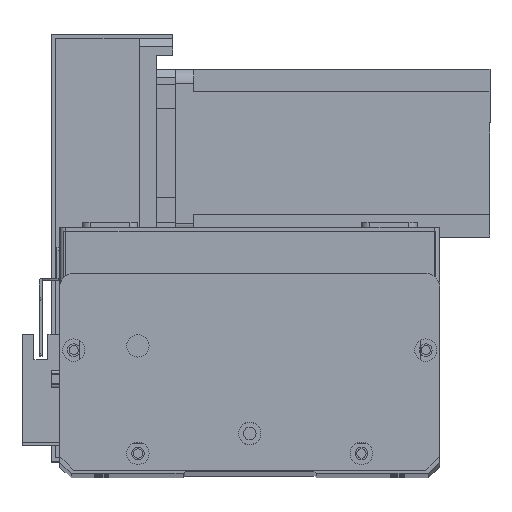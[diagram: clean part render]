
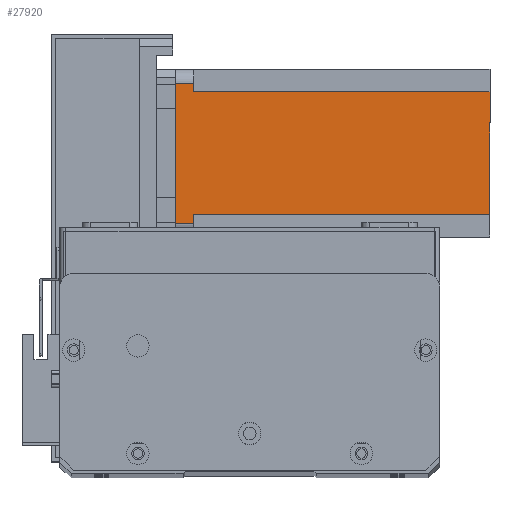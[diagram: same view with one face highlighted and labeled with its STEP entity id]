
A CAD part, top view. The second image highlights one B-rep face of the part: STEP entity #27920.
In plain terms, the highlighted planar face has unit normal (0, 0, 1) as drawn and (0, -1, 0) by its records, which use the part's own axes.
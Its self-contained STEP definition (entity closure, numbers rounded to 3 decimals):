
#32 = VERTEX_POINT ( 'NONE', #8548 ) ;
#357 = VERTEX_POINT ( 'NONE', #23467 ) ;
#372 = LINE ( 'NONE', #2084, #22932 ) ;
#772 = CARTESIAN_POINT ( 'NONE',  ( 8., 0., -112.5 ) ) ;
#1300 = FACE_OUTER_BOUND ( 'NONE', #15121, .T. ) ;
#2084 = CARTESIAN_POINT ( 'NONE',  ( 0., 0., 0. ) ) ;
#3208 = AXIS2_PLACEMENT_3D ( 'NONE', #16554, #27728, #14398 ) ;
#3613 = VECTOR ( 'NONE', #7648, 1000. ) ;
#3768 = VECTOR ( 'NONE', #26689, 1000. ) ;
#3980 = VERTEX_POINT ( 'NONE', #28696 ) ;
#4380 = CARTESIAN_POINT ( 'NONE',  ( 5., 0., -112.5 ) ) ;
#4400 = VECTOR ( 'NONE', #9459, 1000. ) ;
#7367 = LINE ( 'NONE', #22879, #19296 ) ;
#7623 = EDGE_CURVE ( 'NONE', #357, #16253, #7367, .T. ) ;
#7648 = DIRECTION ( 'NONE',  ( 1., 0., 0. ) ) ;
#8548 = CARTESIAN_POINT ( 'NONE',  ( 52., 0., -6.5 ) ) ;
#9073 = CARTESIAN_POINT ( 'NONE',  ( 5., 0., 0. ) ) ;
#9459 = DIRECTION ( 'NONE',  ( 0., 0., 1. ) ) ;
#9672 = LINE ( 'NONE', #16555, #3613 ) ;
#10803 = CARTESIAN_POINT ( 'NONE',  ( 52., 0., -6.5 ) ) ;
#10835 = ORIENTED_EDGE ( 'NONE', *, *, #14169, .T. ) ;
#10970 = CARTESIAN_POINT ( 'NONE',  ( 8., 0., -6.5 ) ) ;
#11071 = CARTESIAN_POINT ( 'NONE',  ( 52., 0., -112.5 ) ) ;
#11198 = DIRECTION ( 'NONE',  ( 1., 0., 0. ) ) ;
#12153 = PLANE ( 'NONE',  #3208 ) ;
#12406 = VERTEX_POINT ( 'NONE', #15108 ) ;
#12567 = ORIENTED_EDGE ( 'NONE', *, *, #7623, .T. ) ;
#13082 = ORIENTED_EDGE ( 'NONE', *, *, #15306, .F. ) ;
#13865 = CARTESIAN_POINT ( 'NONE',  ( 8., 0., -112.5 ) ) ;
#14058 = LINE ( 'NONE', #4380, #18619 ) ;
#14169 = EDGE_CURVE ( 'NONE', #32, #357, #24742, .T. ) ;
#14398 = DIRECTION ( 'NONE',  ( 0., 0., -1. ) ) ;
#14527 = VERTEX_POINT ( 'NONE', #772 ) ;
#14531 = EDGE_CURVE ( 'NONE', #14527, #21641, #9672, .T. ) ;
#15108 = CARTESIAN_POINT ( 'NONE',  ( 5., 0., -6.5 ) ) ;
#15121 = EDGE_LOOP ( 'NONE', ( #10835, #12567, #13082, #22526, #28899, #15122, #28316, #22492 ) ) ;
#15122 = ORIENTED_EDGE ( 'NONE', *, *, #28840, .F. ) ;
#15306 = EDGE_CURVE ( 'NONE', #27056, #16253, #372, .T. ) ;
#16253 = VERTEX_POINT ( 'NONE', #27985 ) ;
#16554 = CARTESIAN_POINT ( 'NONE',  ( 0., 0., -112.5 ) ) ;
#16555 = CARTESIAN_POINT ( 'NONE',  ( 0., 0., -112.5 ) ) ;
#18619 = VECTOR ( 'NONE', #22397, 1000. ) ;
#19296 = VECTOR ( 'NONE', #22848, 1000. ) ;
#20734 = EDGE_CURVE ( 'NONE', #27056, #12406, #14058, .T. ) ;
#21034 = LINE ( 'NONE', #11071, #3768 ) ;
#21641 = VERTEX_POINT ( 'NONE', #23160 ) ;
#22377 = LINE ( 'NONE', #13865, #4400 ) ;
#22397 = DIRECTION ( 'NONE',  ( 0., 0., -1. ) ) ;
#22492 = ORIENTED_EDGE ( 'NONE', *, *, #28105, .F. ) ;
#22526 = ORIENTED_EDGE ( 'NONE', *, *, #20734, .T. ) ;
#22848 = DIRECTION ( 'NONE',  ( 0., 0., 1. ) ) ;
#22879 = CARTESIAN_POINT ( 'NONE',  ( 55., 0., -112.5 ) ) ;
#22932 = VECTOR ( 'NONE', #11198, 1000. ) ;
#23160 = CARTESIAN_POINT ( 'NONE',  ( 52., 0., -112.5 ) ) ;
#23220 = LINE ( 'NONE', #10970, #28994 ) ;
#23467 = CARTESIAN_POINT ( 'NONE',  ( 55., 0., -6.5 ) ) ;
#24065 = VECTOR ( 'NONE', #28591, 1000. ) ;
#24742 = LINE ( 'NONE', #10803, #24065 ) ;
#26329 = EDGE_CURVE ( 'NONE', #3980, #12406, #23220, .T. ) ;
#26588 = DIRECTION ( 'NONE',  ( -1., 0., 0. ) ) ;
#26689 = DIRECTION ( 'NONE',  ( 0., 0., -1. ) ) ;
#27056 = VERTEX_POINT ( 'NONE', #9073 ) ;
#27728 = DIRECTION ( 'NONE',  ( 0., -1., 0. ) ) ;
#27920 = ADVANCED_FACE ( 'NONE', ( #1300 ), #12153, .T. ) ;
#27985 = CARTESIAN_POINT ( 'NONE',  ( 55., 0., 0. ) ) ;
#28105 = EDGE_CURVE ( 'NONE', #32, #21641, #21034, .T. ) ;
#28316 = ORIENTED_EDGE ( 'NONE', *, *, #14531, .T. ) ;
#28591 = DIRECTION ( 'NONE',  ( 1., 0., 0. ) ) ;
#28696 = CARTESIAN_POINT ( 'NONE',  ( 8., 0., -6.5 ) ) ;
#28840 = EDGE_CURVE ( 'NONE', #14527, #3980, #22377, .T. ) ;
#28899 = ORIENTED_EDGE ( 'NONE', *, *, #26329, .F. ) ;
#28994 = VECTOR ( 'NONE', #26588, 1000. ) ;
